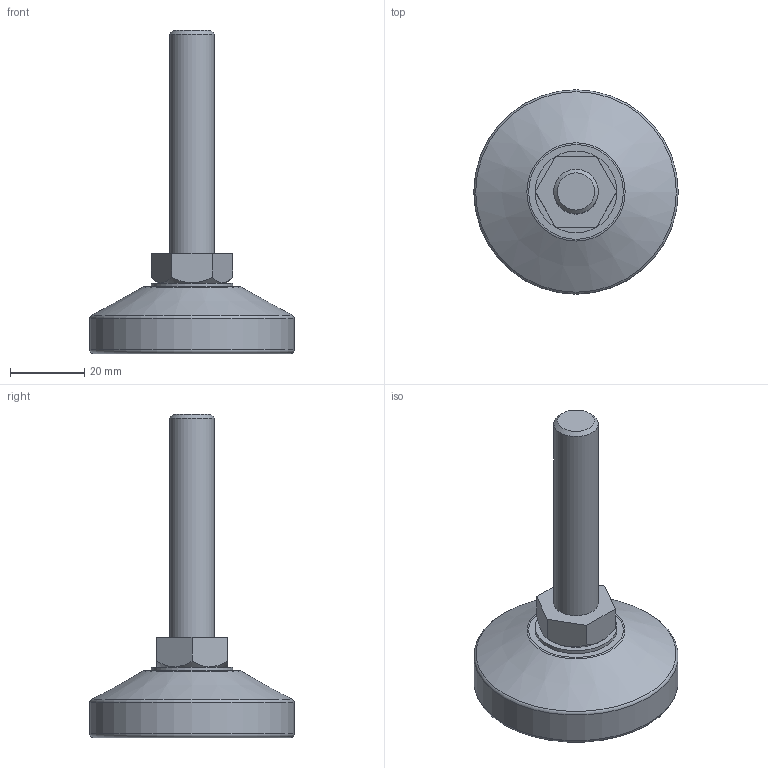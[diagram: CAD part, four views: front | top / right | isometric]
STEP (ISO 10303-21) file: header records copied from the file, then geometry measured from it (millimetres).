
FILE_DESCRIPTION(/* description */ (''),/* implementation_level */ '2;1');
FILE_NAME(/* name */ 'D:\조절자\F\F-M12-60L.stp',/* time_stamp */ '2016-03-14T14:33:38+09:00',/* author */ ('GS-DT-1-001'),/* organization */ (''),/* preprocessor_version */ 'ST-DEVELOPER v15.6',/* originating_system */ 'Autodesk Inventor LT ',/* authorisation */ '');
FILE_SCHEMA (('AUTOMOTIVE_DESIGN { 1 0 10303 214 3 1 1 }'));
Length unit declared in the file: millimetre
Products named in the file (1): F-M12-60L
Bounding box: 55 x 55 x 87 mm (x, y, z)
Volume: 33317.9 mm3; surface area: 12346 mm2
Topology: 3 solids, 3 shells, 36 faces, 68 edges, 42 vertices
Faces by surface type: plane 16, cylinder 9, cone 7, torus 4
Full cylindrical faces by diameter (mm): 5.153 x1, 6.1 x1, 6.2 x1, 12 x1, 22 x1, 35 x1, 46 x1, 50 x1, 55 x1
Entity records: 806 total; most frequent: DIRECTION 142, CARTESIAN_POINT 135, ORIENTED_EDGE 92, AXIS2_PLACEMENT_3D 65, EDGE_LOOP 64, EDGE_CURVE 46, VERTEX_POINT 40, FACE_OUTER_BOUND 36
